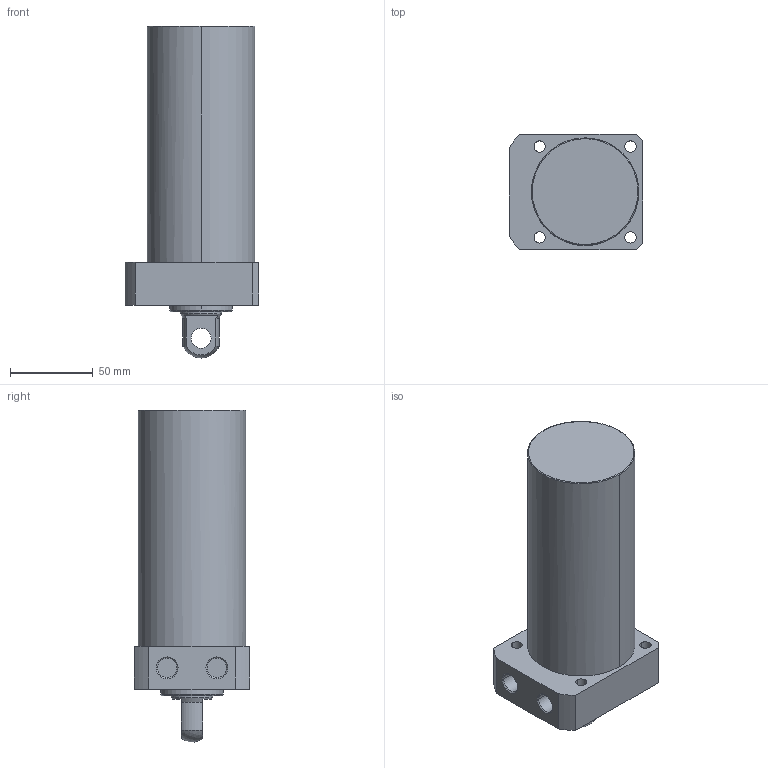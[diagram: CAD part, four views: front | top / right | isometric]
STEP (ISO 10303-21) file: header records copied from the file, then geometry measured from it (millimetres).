
FILE_DESCRIPTION((' '),'2;1');
FILE_NAME( 'TLLR-065CP-110.STEP.stp', '2025-10-24T16:35:03', (' '), ('--- Datakit www.datakit.com---'), ' Datakit CrossCadWare V2024.1 Dec 21 2023', 'Mastercam 2025', ' ');
FILE_SCHEMA(('AUTOMOTIVE_DESIGN { 1 0 10303 214 1 1 1 1 }'));
Length unit declared in the file: millimetre
Products named in the file (1): TLLR-065CP-110
Bounding box: 81 x 70 x 200.92 mm (x, y, z)
Volume: 622148.7 mm3; surface area: 53565.1 mm2
Topology: 1 solids, 1 shells, 57 faces, 164 edges, 116 vertices
Faces by surface type: cylinder 28, plane 18, cone 8, torus 2, sphere 1
Entity records: 2006 total; most frequent: DIRECTION 378, CARTESIAN_POINT 350, ORIENTED_EDGE 328, EDGE_CURVE 164, AXIS2_PLACEMENT_3D 160, VERTEX_POINT 116, CIRCLE 102, EDGE_LOOP 74
